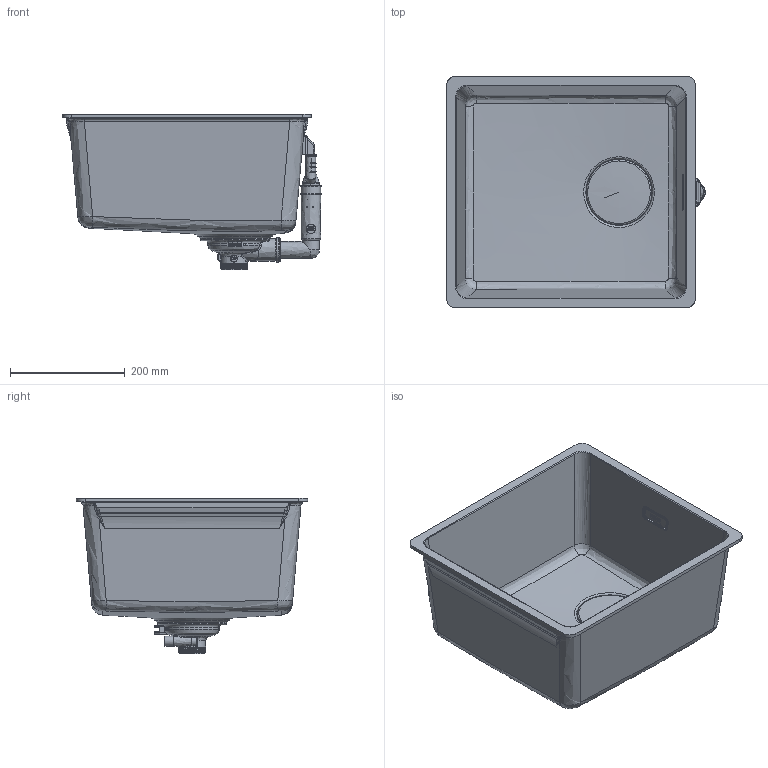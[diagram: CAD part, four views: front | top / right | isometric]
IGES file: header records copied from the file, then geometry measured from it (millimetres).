
Global section: file name: MRG 210-37; native system: Autodesk Inventor 2021; preprocessor: unknown; date: 20210929.134735; units: millimetre
Bounding box: 450.35 x 403 x 271.19 mm (x, y, z)
Volume: 3171018.7 mm3; surface area: 1060306.1 mm2
Topology: 20 solids, 21 shells, 5053 faces, 13574 edges, 8746 vertices
Faces by surface type: bspline 5053
